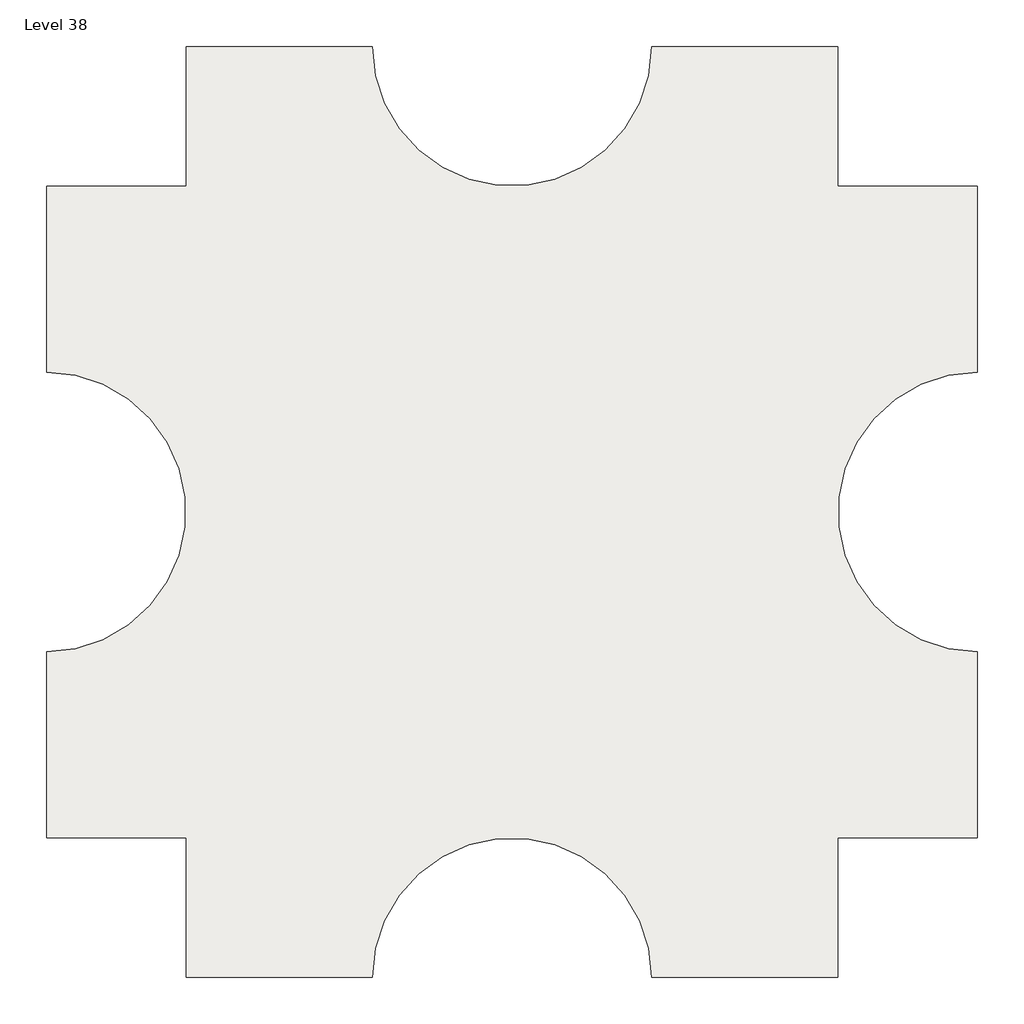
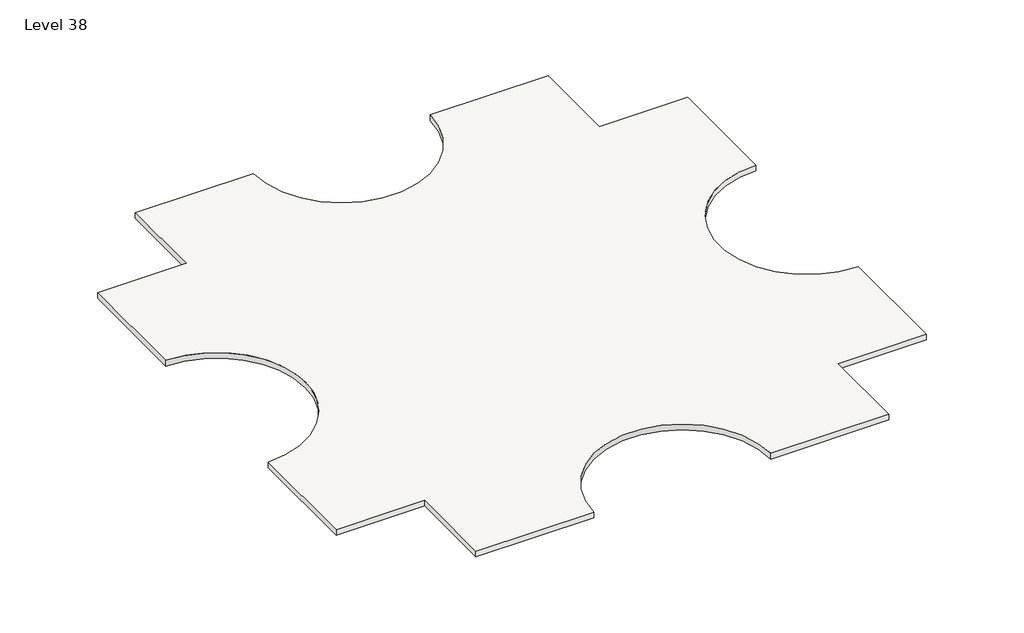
# One storey: 2 slabs.
"""IFC4 building model written with IfcOpenShell, lengths in millimetres."""

import ifcopenshell
import ifcopenshell.guid

model = None  # the IFC model being written
_history = None  # IfcOwnerHistory: only IFC2X3 demands one
_inside = {}  # id of a spatial element -> (the spatial element, [elements in it])
_under = {}  # id of a project, library or spatial element -> (it, [spatial elements below it])
_declared = {}  # id of a project -> (the project, [libraries it declares])
_typed = {}  # id of a type object -> (the type object, [elements of that type])
_made_of = {}  # id of a material, layer set ... -> (it, [elements and type objects made of it])


def new_model(schema):
    """Start an empty IFC model of exactly this schema.

    Asked for "IFC4X3", IfcOpenShell would pick the latest addendum, in which some entities
    have other attributes; the version numbers below select the first issue.
    IFC2X3 requires an IfcOwnerHistory on every rooted entity: one is made here for all.
    """
    global model, _history
    if schema == "IFC4X3":
        model = ifcopenshell.file(schema_version=(4, 3, 0, 0))
    else:
        model = ifcopenshell.file(schema=schema)
    _inside.clear()
    _under.clear()
    _declared.clear()
    _typed.clear()
    _made_of.clear()
    _history = None
    if model.schema == "IFC2X3":
        org = make("IfcOrganization", Name="unknown")
        user = make(
            "IfcPersonAndOrganization",
            ThePerson=make("IfcPerson", FamilyName="unknown"),
            TheOrganization=org,
        )
        app = make(
            "IfcApplication",
            ApplicationDeveloper=org,
            Version="unknown",
            ApplicationFullName="unknown",
            ApplicationIdentifier="unknown",
        )
        _history = make(
            "IfcOwnerHistory",
            OwningUser=user,
            OwningApplication=app,
            ChangeAction="ADDED",
            CreationDate=0,
        )
    return model


def make(cls, **values):
    """One entity of the class cls with the attributes given. An attribute that is None is left unset."""
    return model.create_entity(
        cls, **{name: value for name, value in values.items() if value is not None}
    )


def rooted(cls, **values):
    """An entity with a GlobalId (a new one), such as an element, a storey or a relation."""
    return make(cls, GlobalId=ifcopenshell.guid.new(), OwnerHistory=_history, **values)


def si_unit(unit_type, name, prefix=None):
    """IfcSIUnit, for example si_unit("LENGTHUNIT", "METRE", prefix="MILLI")."""
    return make("IfcSIUnit", UnitType=unit_type, Prefix=prefix, Name=name)


def assignment(units):
    """IfcUnitAssignment: the units of a project."""
    return None if units is None else make("IfcUnitAssignment", Units=units)


def point(xyz):
    """IfcCartesianPoint."""
    return None if xyz is None else make("IfcCartesianPoint", Coordinates=xyz)


def direction(xyz):
    """IfcDirection."""
    return None if xyz is None else make("IfcDirection", DirectionRatios=xyz)


def frame(location, z_axis=None, x_axis=None):
    """IfcAxis2Placement3D, a coordinate frame: its origin and axes. An axis left out is left unset."""
    return make(
        "IfcAxis2Placement3D",
        Location=point(location),
        Axis=direction(z_axis),
        RefDirection=direction(x_axis),
    )


def frame_2d(location, x_axis=None):
    """IfcAxis2Placement2D, a coordinate frame in the plane: its origin and x axis."""
    return make(
        "IfcAxis2Placement2D", Location=point(location), RefDirection=direction(x_axis)
    )


def origin():
    """The frame at (0, 0, 0) with its axes left unset."""
    return frame((0.0, 0.0, 0.0))


def place(relative_to, where):
    """IfcLocalPlacement: puts the frame where relative to a parent placement (None: the world)."""
    return make(
        "IfcLocalPlacement", PlacementRelTo=relative_to, RelativePlacement=where
    )


def context(
    kind, dimensions, precision=None, world=None, true_north=None, identifier=None
):
    """IfcGeometricRepresentationContext, for example the 3D "Model" context."""
    return make(
        "IfcGeometricRepresentationContext",
        ContextIdentifier=identifier,
        ContextType=kind,
        CoordinateSpaceDimension=dimensions,
        Precision=precision,
        WorldCoordinateSystem=world,
        TrueNorth=true_north,
    )


def project(units=None, contexts=None):
    """IfcProject with its units and contexts."""
    return rooted(
        "IfcProject",
        Name="project",
        RepresentationContexts=contexts,
        UnitsInContext=assignment(units),
    )


def spatial(cls, under=None, at=None, **own):
    """A site, building, storey or space (cls), placed at a placement, below another one or the project."""
    s = rooted(cls, ObjectPlacement=at, **own)
    if under is not None:
        _under.setdefault(under.id(), (under, []))[1].append(s)
    return s


def polyline(points):
    """IfcPolyline through the points."""
    return make("IfcPolyline", Points=[point(p) for p in points])


def circle_curve(where, radius):
    """IfcCircle in the frame where."""
    return make("IfcCircle", Position=where, Radius=radius)


def trimmed(basis, trim1, trim2, sense, master):
    """IfcTrimmedCurve: the piece of a basis curve between two trims."""
    return make(
        "IfcTrimmedCurve",
        BasisCurve=basis,
        Trim1=trim1,
        Trim2=trim2,
        SenseAgreement=sense,
        MasterRepresentation=master,
    )


def segment(curve, same_sense, transition):
    """IfcCompositeCurveSegment."""
    return make(
        "IfcCompositeCurveSegment",
        Transition=transition,
        SameSense=same_sense,
        ParentCurve=curve,
    )


def composite_curve(segments, self_intersect=None):
    """IfcCompositeCurve: segments joined end to end."""
    return make("IfcCompositeCurve", Segments=segments, SelfIntersect=self_intersect)


def outline(outer, holes=None, kind="AREA"):
    """IfcArbitraryClosedProfileDef: a profile drawn as a closed curve; with holes, ...WithVoids."""
    if holes is None:
        return make("IfcArbitraryClosedProfileDef", ProfileType=kind, OuterCurve=outer)
    return make(
        "IfcArbitraryProfileDefWithVoids",
        ProfileType=kind,
        OuterCurve=outer,
        InnerCurves=holes,
    )


def extrude(swept, where, along, depth):
    """IfcExtrudedAreaSolid: the profile swept, set in the frame where, extruded along a direction by depth."""
    return make(
        "IfcExtrudedAreaSolid",
        SweptArea=swept,
        Position=where,
        ExtrudedDirection=direction(along),
        Depth=depth,
    )


def shape(context_of_items, identifier, shape_type, items):
    """IfcShapeRepresentation: the items that make up one representation, for example the "Body"."""
    return make(
        "IfcShapeRepresentation",
        ContextOfItems=context_of_items,
        RepresentationIdentifier=identifier,
        RepresentationType=shape_type,
        Items=items,
    )


def made_of(thing, what):
    """Note that an element or type object is made of a material, layer set ...; save() writes the relation."""
    if what is not None:
        _made_of.setdefault(what.id(), (what, []))[1].append(thing)
    return thing


def element(
    cls,
    number,
    at=None,
    inside=None,
    cuts=None,
    type_object=None,
    material=None,
    context=None,
    identifier="Body",
    shape_type=None,
    held_by="IfcProductDefinitionShape",
    body=None,
    shapes=None,
    **own,
):
    """One element of the class cls, such as IfcWall. Its Tag is "e" and its number.

    at: its placement. inside: the storey or other place that contains it. cuts: it is an
    opening in that element (IfcRelVoidsElement). A single representation is given by context,
    identifier, shape_type and body (its items); several are given by shapes. held_by: the class
    of the entity that holds the representations. save() writes the other relations.
    """
    e = rooted(cls, Tag="e%d" % number, ObjectPlacement=at, **own)
    if body is not None:
        shapes = [shape(context, identifier, shape_type, body)]
    if shapes is not None:
        e.Representation = make(held_by, Representations=shapes)
    if inside is not None:
        _inside.setdefault(inside.id(), (inside, []))[1].append(e)
    if cuts is not None:
        rooted(
            "IfcRelVoidsElement", RelatingBuildingElement=cuts, RelatedOpeningElement=e
        )
    if type_object is not None:
        _typed.setdefault(type_object.id(), (type_object, []))[1].append(e)
    return made_of(e, material)


def aggregate(whole, parts):
    """IfcRelAggregates: a whole, such as a stair, and the parts it consists of."""
    return rooted("IfcRelAggregates", RelatingObject=whole, RelatedObjects=parts)


def save(model, path):
    """Write the relations noted so far, then the file.

    IfcRelAggregates (storeys below a building ...), IfcRelContainedInSpatialStructure (elements
    in a storey), IfcRelDefinesByType, IfcRelAssociatesMaterial and IfcRelDeclares: one each for
    every whole, place, type object, material and project.
    """
    for whole, parts in _under.values():
        aggregate(whole, parts)
    for where, things in _inside.values():
        rooted(
            "IfcRelContainedInSpatialStructure",
            RelatedElements=things,
            RelatingStructure=where,
        )
    for kind, things in _typed.values():
        rooted("IfcRelDefinesByType", RelatedObjects=things, RelatingType=kind)
    for what, things in _made_of.values():
        rooted("IfcRelAssociatesMaterial", RelatedObjects=things, RelatingMaterial=what)
    for by, libraries in _declared.values():
        rooted("IfcRelDeclares", RelatingContext=by, RelatedDefinitions=libraries)
    model.write(path)


model = new_model("IFC4")

# Units and contexts
model_context = context("Model", 3, world=origin())
ifc_project = project(units=[si_unit("LENGTHUNIT", "METRE", prefix="MILLI")], contexts=[model_context])

# Site, building, storey
site = spatial("IfcSite", under=ifc_project)
building = spatial("IfcBuilding", under=site)
storey = spatial("IfcBuildingStorey", under=building, Name="Level 38", Elevation=112776.0)

# Slabs
placement = place(None, origin())
element("IfcSlab", 1, ObjectType="Generic - 12\"", at=placement, inside=storey, context=model_context, shape_type="SweptSolid", body=[
    extrude(outline(composite_curve([segment(polyline([(-7150.3629456, 4479.6634547), (-7150.3629456, 9051.6634547), (-1054.3629456, 9051.6634547)]), True, "CONTINUOUS"), segment(trimmed(circle_curve(frame_2d((3517.6370544, 9051.6634547)), 4572.0), [point((-1054.3629456, 9051.6634547))], [point((8089.6370544, 9051.6634547))], True, "CARTESIAN"), True, "CONTINUOUS"), segment(polyline([(8089.6370544, 9051.6634547), (14185.6370544, 9051.6634547), (14185.6370544, 4479.6634547), (18757.6370544, 4479.6634547), (18757.6370544, -1616.3365453)]), True, "CONTINUOUS"), segment(trimmed(circle_curve(frame_2d((18757.6370544, -6188.3365453)), 4572.0), [point((18757.6370544, -1616.3365453))], [point((18757.6370544, -10760.3365453))], True, "CARTESIAN"), True, "CONTINUOUS"), segment(polyline([(18757.6370544, -10760.3365453), (18757.6370544, -16856.3365453), (14185.6370544, -16856.3365453), (14185.6370544, -21428.3365453), (8089.6370544, -21428.3365453)]), True, "CONTINUOUS"), segment(trimmed(circle_curve(frame_2d((3517.6370544, -21428.3365453)), 4572.0), [point((8089.6370544, -21428.3365453))], [point((-1054.3629456, -21428.3365453))], True, "CARTESIAN"), True, "CONTINUOUS"), segment(polyline([(-1054.3629456, -21428.3365453), (-7150.3629456, -21428.3365453), (-7150.3629456, -16856.3365453), (-11722.3629456, -16856.3365453), (-11722.3629456, -10760.3365453)]), True, "CONTINUOUS"), segment(trimmed(circle_curve(frame_2d((-11722.3629456, -6188.3365453)), 4572.0), [point((-11722.3629456, -10760.3365453))], [point((-11722.3629456, -1616.3365453))], True, "CARTESIAN"), True, "CONTINUOUS"), segment(polyline([(-11722.3629456, -1616.3365453), (-11722.3629456, 4479.6634547), (-7150.3629456, 4479.6634547)]), True, "CONTINUOUS")], self_intersect=False)), frame((0.0, 0.0, 112471.2), z_axis=(0.0, 0.0, 1.0), x_axis=(1.0, 0.0, 0.0)), (0.0, 0.0, 1.0), 304.8),
])
element("IfcSlab", 2, ObjectType="Generic - 12\"", at=placement, inside=storey, context=model_context, shape_type="SweptSolid", body=[
    extrude(outline(composite_curve([segment(polyline([(-7150.3629456, 4479.6634547), (-7150.3629456, 9051.6634547), (-1054.3629456, 9051.6634547)]), True, "CONTINUOUS"), segment(trimmed(circle_curve(frame_2d((3517.6370544, 9051.6634547)), 4572.0), [point((-1054.3629456, 9051.6634547))], [point((8089.6370544, 9051.6634547))], True, "CARTESIAN"), True, "CONTINUOUS"), segment(polyline([(8089.6370544, 9051.6634547), (14185.6370544, 9051.6634547), (14185.6370544, 4479.6634547), (18757.6370544, 4479.6634547), (18757.6370544, -1616.3365453)]), True, "CONTINUOUS"), segment(trimmed(circle_curve(frame_2d((18757.6370544, -6188.3365453)), 4572.0), [point((18757.6370544, -1616.3365453))], [point((18757.6370544, -10760.3365453))], True, "CARTESIAN"), True, "CONTINUOUS"), segment(polyline([(18757.6370544, -10760.3365453), (18757.6370544, -16856.3365453), (14185.6370544, -16856.3365453), (14185.6370544, -21428.3365453), (8089.6370544, -21428.3365453)]), True, "CONTINUOUS"), segment(trimmed(circle_curve(frame_2d((3517.6370544, -21428.3365453)), 4572.0), [point((8089.6370544, -21428.3365453))], [point((-1054.3629456, -21428.3365453))], True, "CARTESIAN"), True, "CONTINUOUS"), segment(polyline([(-1054.3629456, -21428.3365453), (-7150.3629456, -21428.3365453), (-7150.3629456, -16856.3365453), (-11722.3629456, -16856.3365453), (-11722.3629456, -10760.3365453)]), True, "CONTINUOUS"), segment(trimmed(circle_curve(frame_2d((-11722.3629456, -6188.3365453)), 4572.0), [point((-11722.3629456, -10760.3365453))], [point((-11722.3629456, -1616.3365453))], True, "CARTESIAN"), True, "CONTINUOUS"), segment(polyline([(-11722.3629456, -1616.3365453), (-11722.3629456, 4479.6634547), (-7150.3629456, 4479.6634547)]), True, "CONTINUOUS")], self_intersect=False)), frame((0.0, 0.0, 112471.2), z_axis=(0.0, 0.0, 1.0), x_axis=(1.0, 0.0, 0.0)), (0.0, 0.0, 1.0), 304.8),
])

save(model, "model.ifc")
